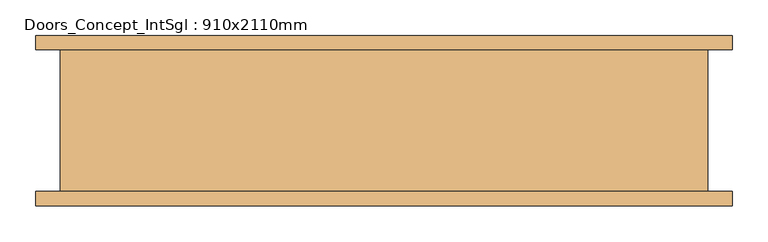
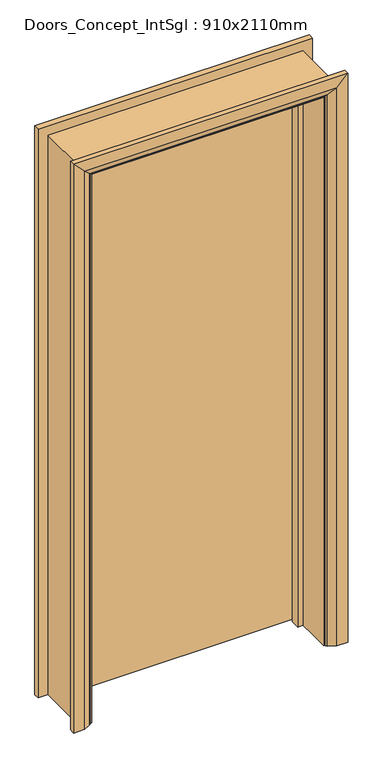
"""IFC4 building model written with IfcOpenShell, lengths in millimetres: door geometry, Doors_Concept_IntSgl : 910x2110mm."""

import ifcopenshell
import ifcopenshell.guid

model = None  # the IFC model being written
_history = None  # IfcOwnerHistory: only IFC2X3 demands one
_inside = {}  # id of a spatial element -> (the spatial element, [elements in it])
_under = {}  # id of a project, library or spatial element -> (it, [spatial elements below it])
_declared = {}  # id of a project -> (the project, [libraries it declares])
_typed = {}  # id of a type object -> (the type object, [elements of that type])
_made_of = {}  # id of a material, layer set ... -> (it, [elements and type objects made of it])


def new_model(schema):
    """Start an empty IFC model of exactly this schema.

    Asked for "IFC4X3", IfcOpenShell would pick the latest addendum, in which some entities
    have other attributes; the version numbers below select the first issue.
    IFC2X3 requires an IfcOwnerHistory on every rooted entity: one is made here for all.
    """
    global model, _history
    if schema == "IFC4X3":
        model = ifcopenshell.file(schema_version=(4, 3, 0, 0))
    else:
        model = ifcopenshell.file(schema=schema)
    _inside.clear()
    _under.clear()
    _declared.clear()
    _typed.clear()
    _made_of.clear()
    _history = None
    if model.schema == "IFC2X3":
        org = make("IfcOrganization", Name="unknown")
        user = make(
            "IfcPersonAndOrganization",
            ThePerson=make("IfcPerson", FamilyName="unknown"),
            TheOrganization=org,
        )
        app = make(
            "IfcApplication",
            ApplicationDeveloper=org,
            Version="unknown",
            ApplicationFullName="unknown",
            ApplicationIdentifier="unknown",
        )
        _history = make(
            "IfcOwnerHistory",
            OwningUser=user,
            OwningApplication=app,
            ChangeAction="ADDED",
            CreationDate=0,
        )
    return model


def make(cls, **values):
    """One entity of the class cls with the attributes given. An attribute that is None is left unset."""
    return model.create_entity(
        cls, **{name: value for name, value in values.items() if value is not None}
    )


def rooted(cls, **values):
    """An entity with a GlobalId (a new one), such as an element, a storey or a relation."""
    return make(cls, GlobalId=ifcopenshell.guid.new(), OwnerHistory=_history, **values)


def si_unit(unit_type, name, prefix=None):
    """IfcSIUnit, for example si_unit("LENGTHUNIT", "METRE", prefix="MILLI")."""
    return make("IfcSIUnit", UnitType=unit_type, Prefix=prefix, Name=name)


def assignment(units):
    """IfcUnitAssignment: the units of a project."""
    return None if units is None else make("IfcUnitAssignment", Units=units)


def point(xyz):
    """IfcCartesianPoint."""
    return None if xyz is None else make("IfcCartesianPoint", Coordinates=xyz)


def direction(xyz):
    """IfcDirection."""
    return None if xyz is None else make("IfcDirection", DirectionRatios=xyz)


def frame(location, z_axis=None, x_axis=None):
    """IfcAxis2Placement3D, a coordinate frame: its origin and axes. An axis left out is left unset."""
    return make(
        "IfcAxis2Placement3D",
        Location=point(location),
        Axis=direction(z_axis),
        RefDirection=direction(x_axis),
    )


def origin():
    """The frame at (0, 0, 0) with its axes left unset."""
    return frame((0.0, 0.0, 0.0))


def place(relative_to, where):
    """IfcLocalPlacement: puts the frame where relative to a parent placement (None: the world)."""
    return make(
        "IfcLocalPlacement", PlacementRelTo=relative_to, RelativePlacement=where
    )


def context(
    kind, dimensions, precision=None, world=None, true_north=None, identifier=None
):
    """IfcGeometricRepresentationContext, for example the 3D "Model" context."""
    return make(
        "IfcGeometricRepresentationContext",
        ContextIdentifier=identifier,
        ContextType=kind,
        CoordinateSpaceDimension=dimensions,
        Precision=precision,
        WorldCoordinateSystem=world,
        TrueNorth=true_north,
    )


def project(units=None, contexts=None):
    """IfcProject with its units and contexts."""
    return rooted(
        "IfcProject",
        Name="project",
        RepresentationContexts=contexts,
        UnitsInContext=assignment(units),
    )


def spatial(cls, under=None, at=None, **own):
    """A site, building, storey or space (cls), placed at a placement, below another one or the project."""
    s = rooted(cls, ObjectPlacement=at, **own)
    if under is not None:
        _under.setdefault(under.id(), (under, []))[1].append(s)
    return s


def polyline(points):
    """IfcPolyline through the points."""
    return make("IfcPolyline", Points=[point(p) for p in points])


def circle_curve(where, radius):
    """IfcCircle in the frame where."""
    return make("IfcCircle", Position=where, Radius=radius)


def ellipse_curve(where, semi_axis1, semi_axis2):
    """IfcEllipse in the frame where."""
    return make(
        "IfcEllipse", Position=where, SemiAxis1=semi_axis1, SemiAxis2=semi_axis2
    )


def outline(outer, holes=None, kind="AREA"):
    """IfcArbitraryClosedProfileDef: a profile drawn as a closed curve; with holes, ...WithVoids."""
    if holes is None:
        return make("IfcArbitraryClosedProfileDef", ProfileType=kind, OuterCurve=outer)
    return make(
        "IfcArbitraryProfileDefWithVoids",
        ProfileType=kind,
        OuterCurve=outer,
        InnerCurves=holes,
    )


def extrude(swept, where, along, depth):
    """IfcExtrudedAreaSolid: the profile swept, set in the frame where, extruded along a direction by depth."""
    return make(
        "IfcExtrudedAreaSolid",
        SweptArea=swept,
        Position=where,
        ExtrudedDirection=direction(along),
        Depth=depth,
    )


def faces_of(points, faces, orient=None, outer=None):
    """IfcFace entities. A face is a list of loops; a loop is a list of indices into points, from 0.

    orient and outer hold one flag for each loop. By default every Orientation is true, the
    first loop of a face is its IfcFaceOuterBound and the others are IfcFaceBound.
    """
    made = []
    for i, loops in enumerate(faces):
        bounds = []
        for j, loop in enumerate(loops):
            is_outer = j == 0 if outer is None else outer[i][j]
            bounds.append(
                make(
                    "IfcFaceOuterBound" if is_outer else "IfcFaceBound",
                    Bound=make("IfcPolyLoop", Polygon=[points[k] for k in loop]),
                    Orientation=True if orient is None else orient[i][j],
                )
            )
        made.append(make("IfcFace", Bounds=bounds))
    return made


def faceted_brep(points, faces, orient=None, outer=None, voids=None):
    """IfcFacetedBrep: a solid bounded by flat faces; with voids (closed shells), ...WithVoids."""
    shared = [point(p) for p in points]
    hull = make("IfcClosedShell", CfsFaces=faces_of(shared, faces, orient, outer))
    if voids is None:
        return make("IfcFacetedBrep", Outer=hull)
    return make(
        "IfcFacetedBrepWithVoids",
        Outer=hull,
        Voids=[
            make(cls, CfsFaces=faces_of(shared, fs, o, b)) for cls, fs, o, b in voids
        ],
    )


def shape(context_of_items, identifier, shape_type, items):
    """IfcShapeRepresentation: the items that make up one representation, for example the "Body"."""
    return make(
        "IfcShapeRepresentation",
        ContextOfItems=context_of_items,
        RepresentationIdentifier=identifier,
        RepresentationType=shape_type,
        Items=items,
    )


def source(mapping_origin, context_of_items, identifier, shape_type, items):
    """IfcRepresentationMap: a shape defined once, which mapped items show again and again."""
    return make(
        "IfcRepresentationMap",
        MappingOrigin=mapping_origin,
        MappedRepresentation=shape(context_of_items, identifier, shape_type, items),
    )


def transform(
    local_origin,
    x_axis=None,
    y_axis=None,
    z_axis=None,
    scale=None,
    scale2=None,
    scale3=None,
    uniform=True,
):
    """IfcCartesianTransformationOperator3D, or its non-uniform kind. x_axis, y_axis, z_axis: its Axis1, 2, 3."""
    if uniform:
        return make(
            "IfcCartesianTransformationOperator3D",
            Axis1=direction(x_axis),
            Axis2=direction(y_axis),
            LocalOrigin=point(local_origin),
            Scale=scale,
            Axis3=direction(z_axis),
        )
    return make(
        "IfcCartesianTransformationOperator3DnonUniform",
        Axis1=direction(x_axis),
        Axis2=direction(y_axis),
        LocalOrigin=point(local_origin),
        Scale=scale,
        Axis3=direction(z_axis),
        Scale2=scale2,
        Scale3=scale3,
    )


def mapped(mapping_source, mapping_target):
    """IfcMappedItem: shows the shape of a source again, moved by a transform."""
    return make(
        "IfcMappedItem", MappingSource=mapping_source, MappingTarget=mapping_target
    )


def made_of(thing, what):
    """Note that an element or type object is made of a material, layer set ...; save() writes the relation."""
    if what is not None:
        _made_of.setdefault(what.id(), (what, []))[1].append(thing)
    return thing


def element(
    cls,
    number,
    at=None,
    inside=None,
    cuts=None,
    type_object=None,
    material=None,
    context=None,
    identifier="Body",
    shape_type=None,
    held_by="IfcProductDefinitionShape",
    body=None,
    shapes=None,
    **own,
):
    """One element of the class cls, such as IfcWall. Its Tag is "e" and its number.

    at: its placement. inside: the storey or other place that contains it. cuts: it is an
    opening in that element (IfcRelVoidsElement). A single representation is given by context,
    identifier, shape_type and body (its items); several are given by shapes. held_by: the class
    of the entity that holds the representations. save() writes the other relations.
    """
    e = rooted(cls, Tag="e%d" % number, ObjectPlacement=at, **own)
    if body is not None:
        shapes = [shape(context, identifier, shape_type, body)]
    if shapes is not None:
        e.Representation = make(held_by, Representations=shapes)
    if inside is not None:
        _inside.setdefault(inside.id(), (inside, []))[1].append(e)
    if cuts is not None:
        rooted(
            "IfcRelVoidsElement", RelatingBuildingElement=cuts, RelatedOpeningElement=e
        )
    if type_object is not None:
        _typed.setdefault(type_object.id(), (type_object, []))[1].append(e)
    return made_of(e, material)


def aggregate(whole, parts):
    """IfcRelAggregates: a whole, such as a stair, and the parts it consists of."""
    return rooted("IfcRelAggregates", RelatingObject=whole, RelatedObjects=parts)


def save(model, path):
    """Write the relations noted so far, then the file.

    IfcRelAggregates (storeys below a building ...), IfcRelContainedInSpatialStructure (elements
    in a storey), IfcRelDefinesByType, IfcRelAssociatesMaterial and IfcRelDeclares: one each for
    every whole, place, type object, material and project.
    """
    for whole, parts in _under.values():
        aggregate(whole, parts)
    for where, things in _inside.values():
        rooted(
            "IfcRelContainedInSpatialStructure",
            RelatedElements=things,
            RelatingStructure=where,
        )
    for kind, things in _typed.values():
        rooted("IfcRelDefinesByType", RelatedObjects=things, RelatingType=kind)
    for what, things in _made_of.values():
        rooted("IfcRelAssociatesMaterial", RelatedObjects=things, RelatingMaterial=what)
    for by, libraries in _declared.values():
        rooted("IfcRelDeclares", RelatingContext=by, RelatedDefinitions=libraries)
    model.write(path)


def plane_surface(at):
    """IfcPlane: the flat surface through the origin of the frame at, square to its z axis."""
    return make("IfcPlane", Position=at)


def cylinder_surface(at, radius):
    """IfcCylindricalSurface: all points at the distance radius from the z axis of the frame at."""
    return make("IfcCylindricalSurface", Position=at, Radius=radius)


def advanced_brep(points, edges, surfaces, faces):
    """IfcAdvancedBrep: a solid bounded by faces that lie on surfaces and meet in shared edges.

    An edge is (start, end): straight between two places in points (the first is 0);
    or (start, end, curve); or (start, end, curve, False) where it runs against its curve.
    A face is (place in surfaces, loops), or (place, loops, False) where it looks against
    its surface's normal. A loop lists edges by number (the first is 1), with a minus sign
    where the edge is run from its end to its start. The first loop is the outer one.
    """
    corners = [point(p) for p in points]
    vertices = [make("IfcVertexPoint", VertexGeometry=c) for c in corners]
    made = []
    for start, end, *more in edges:
        made.append(
            make(
                "IfcEdgeCurve",
                EdgeStart=vertices[start],
                EdgeEnd=vertices[end],
                EdgeGeometry=more[0] if more else make("IfcPolyline", Points=[corners[start], corners[end]]),
                SameSense=more[1] if len(more) > 1 else True,
            )
        )
    hull = []
    for where, loops, *sense in faces:
        bounds = []
        for j, loop in enumerate(loops):
            ring = [make("IfcOrientedEdge", EdgeElement=made[abs(k) - 1], Orientation=k > 0) for k in loop]
            bounds.append(
                make(
                    "IfcFaceOuterBound" if j == 0 else "IfcFaceBound",
                    Bound=make("IfcEdgeLoop", EdgeList=ring),
                    Orientation=True,
                )
            )
        hull.append(make("IfcAdvancedFace", Bounds=bounds, FaceSurface=surfaces[where], SameSense=sense[0] if sense else True))
    return make("IfcAdvancedBrep", Outer=make("IfcClosedShell", CfsFaces=hull))


def doors_concept_intsgl_910x2110mm_27838c89(model_context):
    return source(origin(), model_context, "Body", "SolidModel", [
        extrude(outline(polyline([(413.0, 62.0), (-413.0, 62.0), (-413.0, 100.0), (413.0, 100.0), (413.0, 62.0)])), frame((0.0, 0.0, 8.0), z_axis=(0.0, 0.0, 1.0), x_axis=(1.0, 0.0, 0.0)), (0.0, 0.0, 1.0), 2060.0),
        advanced_brep(
        [(490.0, 120.0, 0.0), (490.0, 100.0, 0.0), (420.0, 100.0, 0.0), (424.0, 106.0, 0.0), (450.0, 120.0, 0.0), (490.0, 120.0, 2145.0), (490.0, 100.0, 2145.0), (-490.0, 100.0, 2145.0), (-490.0, 100.0, 0.0), (-420.0, 100.0, 0.0), (-420.0, 100.0, 2075.0), (420.0, 100.0, 2075.0), (424.0, 106.0, 2079.0), (450.0, 120.0, 2105.0), (-450.0, 120.0, 2105.0), (-450.0, 120.0, 0.0), (-490.0, 120.0, 0.0), (-490.0, 120.0, 2145.0), (-424.0, 106.0, 0.0), (-424.0, 106.0, 2079.0)],
        [
            (0, 1),
            (1, 2),
            (2, 3, circle_curve(frame((428.0, 99.0, 0.0), z_axis=(0.0, 0.0, -1.0), x_axis=(1.0, 0.0, 0.0)), 8.0622577)),
            (3, 4),
            (4, 0),
            (0, 5),
            (5, 6),
            (6, 1),
            (6, 7),
            (7, 8),
            (8, 9),
            (9, 10),
            (10, 11),
            (11, 2),
            (11, 12, ellipse_curve(frame((428.0, 99.0, 2083.0), z_axis=(0.7071067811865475, 0.0, -0.7071067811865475), x_axis=(-0.7071067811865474, 0.0, -0.7071067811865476)), 11.4017543, 8.0622577)),
            (12, 3),
            (12, 13),
            (13, 4),
            (13, 14),
            (14, 15),
            (15, 16),
            (16, 17),
            (17, 5),
            (7, 17),
            (16, 8),
            (15, 18),
            (18, 9, circle_curve(frame((-428.0, 99.0, 0.0), z_axis=(0.0, 0.0, -1.0), x_axis=(-1.0, 0.0, 0.0)), 8.0622577)),
            (19, 10, ellipse_curve(frame((-428.0, 99.0, 2083.0), z_axis=(-0.7071067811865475, 0.0, -0.7071067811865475), x_axis=(-0.7071067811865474, 0.0, 0.7071067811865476)), 11.4017543, 8.0622577)),
            (18, 19),
            (14, 19),
            (19, 12),
        ],
        [
            plane_surface(frame((420.0, 100.0, 0.0), z_axis=(0.0, 0.0, -1.0), x_axis=(0.0, -1.0, 0.0))),
            plane_surface(frame((490.0, 120.0, 0.0), z_axis=(1.0, 0.0, 0.0), x_axis=(0.0, 0.0, 1.0))),
            plane_surface(frame((490.0, 100.0, 0.0), z_axis=(0.0, -1.0, 0.0), x_axis=(0.0, 0.0, 1.0))),
            cylinder_surface(frame((428.0, 99.0, 0.0), z_axis=(0.0, 0.0, -1.0), x_axis=(1.0, 0.0, 0.0)), 8.0622577),
            plane_surface(frame((424.0, 106.0, 0.0), z_axis=(-0.4740998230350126, 0.880471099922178, 0.0), x_axis=(0.0, 0.0, 1.0))),
            plane_surface(frame((450.0, 120.0, 0.0), z_axis=(0.0, 1.0, 0.0), x_axis=(0.0, 0.0, 1.0))),
            plane_surface(frame((-490.0, 120.0, 2145.0), z_axis=(-1.0, 0.0, 0.0), x_axis=(0.0, 0.0, -1.0))),
            plane_surface(frame((-420.0, 100.0, 0.0), z_axis=(0.0, 0.0, -1.0), x_axis=(0.0, -1.0, 0.0))),
            cylinder_surface(frame((-428.0, 99.0, 2075.0), z_axis=(0.0, 0.0, 1.0), x_axis=(-1.0, 0.0, 0.0)), 8.0622577),
            plane_surface(frame((-424.0, 106.0, 2079.0), z_axis=(0.47409982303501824, 0.8804710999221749, 0.0), x_axis=(0.0, 0.0, -1.0))),
            plane_surface(frame((490.0, 120.0, 2145.0), z_axis=(0.0, 0.0, 1.0), x_axis=(-1.0, 0.0, 0.0))),
            cylinder_surface(frame((420.0, 99.0, 2083.0), z_axis=(1.0, 0.0, 0.0), x_axis=(0.0, 0.0, 1.0)), 8.0622577),
            plane_surface(frame((424.0, 106.0, 2079.0), z_axis=(0.0, 0.8804710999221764, -0.4740998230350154), x_axis=(-1.0, 0.0, 0.0))),
        ],
        [
            (0, [[1, 2, 3, 4, 5]]),
            (1, [[-1, 6, 7, 8]]),
            (2, [[-2, -8, 9, 10, 11, 12, 13, 14]]),
            (3, [[-3, -14, 15, 16]]),
            (4, [[-4, -16, 17, 18]]),
            (5, [[-5, -18, 19, 20, 21, 22, 23, -6]]),
            (6, [[24, -22, 25, -10]]),
            (7, [[-21, 26, 27, -11, -25]]),
            (8, [[28, -12, -27, 29]]),
            (9, [[30, -29, -26, -20]]),
            (10, [[-7, -23, -24, -9]]),
            (11, [[-15, -13, -28, 31]]),
            (12, [[-17, -31, -30, -19]]),
        ],
    ),
        extrude(outline(polyline([(0.0, -415.0), (0.0, -396.0), (2051.0, -396.0), (2051.0, 396.0), (0.0, 396.0), (0.0, 415.0), (2070.0, 415.0), (2070.0, -415.0), (0.0, -415.0)])), frame((0.0, 28.0, 0.0), z_axis=(0.0, 1.0, 0.0), x_axis=(0.0, 0.0, 1.0)), (0.0, 0.0, 1.0), 32.0),
        advanced_brep(
        [(-490.0, -120.0, 0.0), (-490.0, -100.0, 0.0), (-420.0, -100.0, 0.0), (-424.0, -106.0, 0.0), (-450.0, -120.0, 0.0), (-490.0, -120.0, 2145.0), (-490.0, -100.0, 2145.0), (-420.0, -100.0, 2075.0), (-424.0, -106.0, 2079.0), (-450.0, -120.0, 2105.0), (490.0, -120.0, 0.0), (450.0, -120.0, 0.0), (424.0, -106.0, 0.0), (420.0, -100.0, 0.0), (490.0, -100.0, 0.0), (490.0, -120.0, 2145.0), (450.0, -120.0, 2105.0), (424.0, -106.0, 2079.0), (420.0, -100.0, 2075.0), (490.0, -100.0, 2145.0)],
        [
            (0, 1),
            (1, 2),
            (2, 3, circle_curve(frame((-428.0, -99.0, 0.0), z_axis=(0.0, 0.0, -1.0), x_axis=(-1.0, 0.0, 0.0)), 8.0622577)),
            (3, 4),
            (4, 0),
            (0, 5),
            (5, 6),
            (6, 1),
            (6, 7),
            (7, 2),
            (7, 8, ellipse_curve(frame((-428.0, -99.0, 2083.0), z_axis=(-0.7071067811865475, 0.0, -0.7071067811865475), x_axis=(0.7071067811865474, 0.0, -0.7071067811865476)), 11.4017543, 8.0622577)),
            (8, 3),
            (8, 9),
            (9, 4),
            (9, 5),
            (10, 11),
            (11, 12),
            (12, 13, circle_curve(frame((428.0, -99.0, 0.0), z_axis=(0.0, 0.0, -1.0), x_axis=(1.0, 0.0, 0.0)), 8.0622577)),
            (13, 14),
            (14, 10),
            (15, 16),
            (16, 11),
            (10, 15),
            (16, 17),
            (17, 12),
            (17, 18, ellipse_curve(frame((428.0, -99.0, 2083.0), z_axis=(0.7071067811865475, 0.0, -0.7071067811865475), x_axis=(0.7071067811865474, 0.0, 0.7071067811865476)), 11.4017543, 8.0622577)),
            (18, 13),
            (18, 19),
            (19, 14),
            (19, 15),
            (5, 15),
            (19, 6),
            (18, 7),
            (17, 8),
            (16, 9),
        ],
        [
            plane_surface(frame((-420.0, -172.8010989, 0.0), z_axis=(0.0, 0.0, -1.0), x_axis=(1.0, 0.0, 0.0))),
            plane_surface(frame((-490.0, -120.0, 0.0), z_axis=(-1.0, 0.0, 0.0), x_axis=(0.0, 0.0, 1.0))),
            plane_surface(frame((-490.0, -100.0, 0.0), z_axis=(0.0, 1.0, 0.0), x_axis=(0.0, 0.0, 1.0))),
            cylinder_surface(frame((-428.0, -99.0, 0.0), z_axis=(0.0, 0.0, -1.0), x_axis=(-1.0, 0.0, 0.0)), 8.0622577),
            plane_surface(frame((-424.0, -106.0, 0.0), z_axis=(0.4740998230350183, -0.8804710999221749, 0.0), x_axis=(0.0, 0.0, 1.0))),
            plane_surface(frame((-450.0, -120.0, 0.0), z_axis=(0.0, -1.0, 0.0), x_axis=(0.0, 0.0, 1.0))),
            plane_surface(frame((420.0, -172.8010989, 0.0), z_axis=(0.0, 0.0, -1.0), x_axis=(-1.0, 0.0, 0.0))),
            plane_surface(frame((450.0, -120.0, 2105.0), z_axis=(0.0, -1.0, 0.0), x_axis=(0.0, 0.0, -1.0))),
            plane_surface(frame((424.0, -106.0, 2079.0), z_axis=(-0.4740998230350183, -0.8804710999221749, 0.0), x_axis=(0.0, 0.0, -1.0))),
            cylinder_surface(frame((428.0, -99.0, 2075.0), z_axis=(0.0, 0.0, 1.0), x_axis=(1.0, 0.0, 0.0)), 8.0622577),
            plane_surface(frame((490.0, -100.0, 2145.0), z_axis=(0.0, 1.0, 0.0), x_axis=(0.0, 0.0, -1.0))),
            plane_surface(frame((490.0, -120.0, 2145.0), z_axis=(1.0, 0.0, 0.0), x_axis=(0.0, 0.0, -1.0))),
            plane_surface(frame((-490.0, -120.0, 2145.0), z_axis=(0.0, 0.0, 1.0), x_axis=(1.0, 0.0, 0.0))),
            plane_surface(frame((-490.0, -100.0, 2145.0), z_axis=(0.0, 1.0, 0.0), x_axis=(1.0, 0.0, 0.0))),
            cylinder_surface(frame((-420.0, -99.0, 2083.0), z_axis=(-1.0, 0.0, 0.0), x_axis=(0.0, 0.0, 1.0)), 8.0622577),
            plane_surface(frame((-424.0, -106.0, 2079.0), z_axis=(0.0, -0.8804710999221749, -0.4740998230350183), x_axis=(1.0, 0.0, 0.0))),
            plane_surface(frame((-450.0, -120.0, 2105.0), z_axis=(0.0, -1.0, 0.0), x_axis=(1.0, 0.0, 0.0))),
        ],
        [
            (0, [[1, 2, 3, 4, 5]]),
            (1, [[-1, 6, 7, 8]]),
            (2, [[-2, -8, 9, 10]]),
            (3, [[-3, -10, 11, 12]]),
            (4, [[-4, -12, 13, 14]]),
            (5, [[-5, -14, 15, -6]]),
            (6, [[16, 17, 18, 19, 20]]),
            (7, [[21, 22, -16, 23]]),
            (8, [[24, 25, -17, -22]]),
            (9, [[26, 27, -18, -25]]),
            (10, [[28, 29, -19, -27]]),
            (11, [[30, -23, -20, -29]]),
            (12, [[-7, 31, -30, 32]]),
            (13, [[-9, -32, -28, 33]]),
            (14, [[-11, -33, -26, 34]]),
            (15, [[-13, -34, -24, 35]]),
            (16, [[-15, -35, -21, -31]]),
        ],
    ),
        faceted_brep([(-415.0, -100.0, 0.0), (-455.0, -100.0, 0.0), (-455.0, 100.0, 0.0), (-415.0, 100.0, 0.0), (-415.0, -100.0, 2070.0), (-455.0, -100.0, 2110.0), (-455.0, 100.0, 2110.0), (-415.0, 100.0, 2070.0), (415.0, -100.0, 0.0), (415.0, 100.0, 0.0), (455.0, 100.0, 0.0), (455.0, -100.0, 0.0), (415.0, -100.0, 2070.0), (415.0, 100.0, 2070.0), (455.0, 100.0, 2110.0), (455.0, -100.0, 2110.0)], [[[0, 1, 2, 3]], [[1, 0, 4, 5]], [[2, 1, 5, 6]], [[3, 2, 6, 7]], [[0, 3, 7, 4]], [[8, 9, 10, 11]], [[12, 13, 9, 8]], [[13, 14, 10, 9]], [[14, 15, 11, 10]], [[15, 12, 8, 11]], [[5, 4, 12, 15]], [[6, 5, 15, 14]], [[7, 6, 14, 13]], [[4, 7, 13, 12]]]),
    ])


if __name__ == "__main__":
    model = new_model("IFC4")
    model_context = context("Model", 3, world=origin())
    ifc_project = project(units=[si_unit("LENGTHUNIT", "METRE", prefix="MILLI")], contexts=[model_context])
    site = spatial("IfcSite", under=ifc_project)
    building = spatial("IfcBuilding", under=site)
    placement = place(None, origin())
    doors_concept_intsgl_910x2110mm_shape = doors_concept_intsgl_910x2110mm_27838c89(model_context)
    element("IfcDoor", 1, ObjectType="Doors_Concept_IntSgl : 910x2110mm", at=placement, inside=building, context=model_context, shape_type="MappedRepresentation", body=[
        mapped(doors_concept_intsgl_910x2110mm_shape, transform((0.0, 0.0, 0.0), x_axis=(1.0, 0.0, 0.0), y_axis=(0.0, 1.0, 0.0), z_axis=(0.0, 0.0, 1.0))),
    ])
    save(model, "model.ifc")
